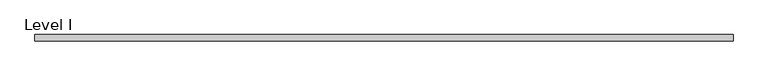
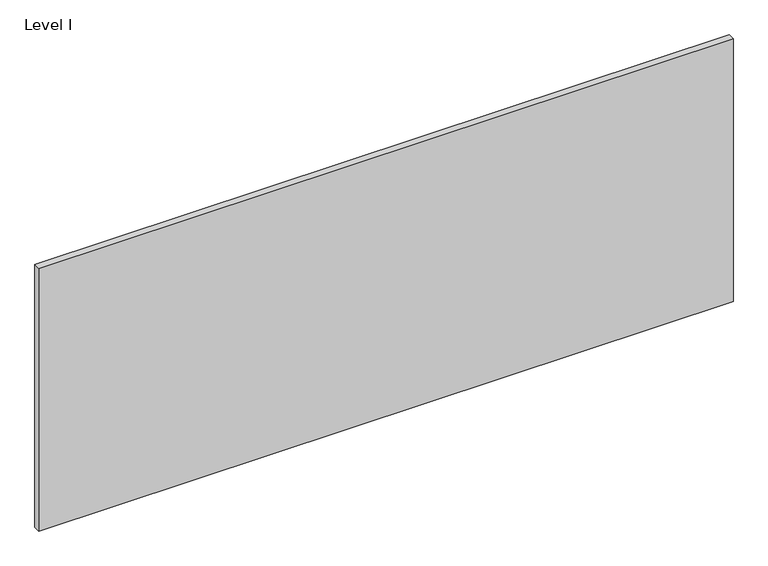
"""IFC4 building model written with IfcOpenShell, lengths in millimetres: proxy geometry, Panel-Fascia-Teknion-Altos-Landscape : Level I."""

from ifc_helpers import new_model, si_unit, frame, origin, place, context, project, spatial, polyline, outline, extrude, source, transform, mapped, element, save


def level_i_42ece40d(model_context):
    return source(origin(), model_context, "Body", "SweptSolid", [
        extrude(outline(polyline([(1012.8305563, -9.525), (-1012.8305562, -9.525), (-1012.8305562, 9.525), (1012.8305563, 9.525), (1012.8305563, -9.525)])), frame((0.0, 0.0, 3.175), z_axis=(0.0, 0.0, 1.0), x_axis=(1.0, 0.0, 0.0)), (0.0, 0.0, 1.0), 810.768),
    ])


if __name__ == "__main__":
    model = new_model("IFC4")
    model_context = context("Model", 3, world=origin())
    ifc_project = project(units=[si_unit("LENGTHUNIT", "METRE", prefix="MILLI")], contexts=[model_context])
    site = spatial("IfcSite", under=ifc_project)
    building = spatial("IfcBuilding", under=site)
    placement = place(None, origin())
    level_i_shape = level_i_42ece40d(model_context)
    element("IfcBuildingElementProxy", 1, Name="Panel-Fascia-Teknion-Altos-Landscape : Level I", ObjectType="Panel-Fascia-Teknion-Altos-Landscape : Level I", at=placement, inside=building, context=model_context, shape_type="MappedRepresentation", body=[
        mapped(level_i_shape, transform((0.0, 0.0, 0.0), x_axis=(1.0, 0.0, 0.0), y_axis=(0.0, 1.0, 0.0), z_axis=(0.0, 0.0, 1.0))),
    ])
    save(model, "model.ifc")
